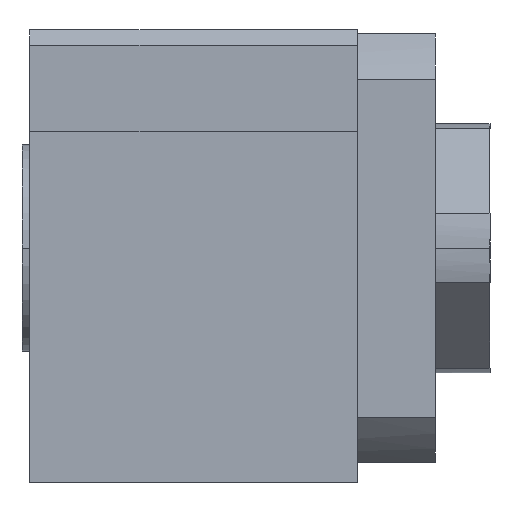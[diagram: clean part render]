
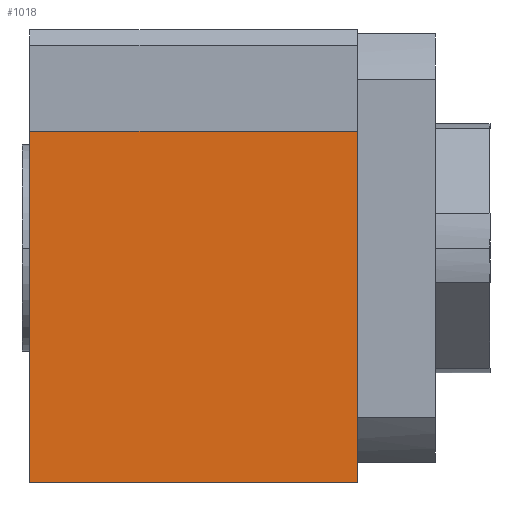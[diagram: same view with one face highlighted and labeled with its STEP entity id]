
A CAD part, front view. The second image highlights one B-rep face of the part: STEP entity #1018.
In plain terms, the highlighted planar face has unit normal (0, -1, 0).
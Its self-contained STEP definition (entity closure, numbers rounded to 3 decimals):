
#420=CARTESIAN_POINT('Vertex',(-42.,-47.5,-30.)) ;
#436=CARTESIAN_POINT('Vertex',(0.,-47.5,-30.)) ;
#439=CARTESIAN_POINT('Line Origine',(-21.,-47.5,-30.)) ;
#673=CARTESIAN_POINT('Line Origine',(-42.,-47.5,-7.5)) ;
#677=CARTESIAN_POINT('Vertex',(-42.,-47.5,15.)) ;
#807=CARTESIAN_POINT('Vertex',(0.,-47.5,15.)) ;
#810=CARTESIAN_POINT('Line Origine',(0.,-47.5,-7.5)) ;
#1002=CARTESIAN_POINT('Axis2P3D Location',(0.,-47.5,-30.)) ;
#1007=CARTESIAN_POINT('Line Origine',(-21.,-47.5,15.)) ;
#440=DIRECTION('Vector Direction',(-1.,0.,0.)) ;
#674=DIRECTION('Vector Direction',(0.,0.,1.)) ;
#811=DIRECTION('Vector Direction',(0.,0.,1.)) ;
#1003=DIRECTION('Axis2P3D Direction',(0.,-1.,0.)) ;
#1004=DIRECTION('Axis2P3D XDirection',(0.,0.,1.)) ;
#1008=DIRECTION('Vector Direction',(-1.,0.,0.)) ;
#1005=AXIS2_PLACEMENT_3D('Plane Axis2P3D',#1002,#1003,#1004) ;
#1013=ORIENTED_EDGE('',*,*,#679,.T.) ;
#1014=ORIENTED_EDGE('',*,*,#443,.F.) ;
#1015=ORIENTED_EDGE('',*,*,#814,.F.) ;
#1016=ORIENTED_EDGE('',*,*,#1011,.T.) ;
#441=VECTOR('Line Direction',#440,1.) ;
#675=VECTOR('Line Direction',#674,1.) ;
#812=VECTOR('Line Direction',#811,1.) ;
#1009=VECTOR('Line Direction',#1008,1.) ;
#1018=ADVANCED_FACE('AK20(H)',(#1017),#1006,.T.) ;
#443=EDGE_CURVE('',#437,#421,#442,.T.) ;
#679=EDGE_CURVE('',#678,#421,#676,.F.) ;
#814=EDGE_CURVE('',#808,#437,#813,.F.) ;
#1011=EDGE_CURVE('',#808,#678,#1010,.T.) ;
#1012=EDGE_LOOP('',(#1013,#1014,#1015,#1016)) ;
#1017=FACE_OUTER_BOUND('',#1012,.T.) ;
#442=LINE('Line',#439,#441) ;
#676=LINE('Line',#673,#675) ;
#813=LINE('Line',#810,#812) ;
#1010=LINE('Line',#1007,#1009) ;
#1006=PLANE('Plane',#1005) ;
#421=VERTEX_POINT('',#420) ;
#437=VERTEX_POINT('',#436) ;
#678=VERTEX_POINT('',#677) ;
#808=VERTEX_POINT('',#807) ;
